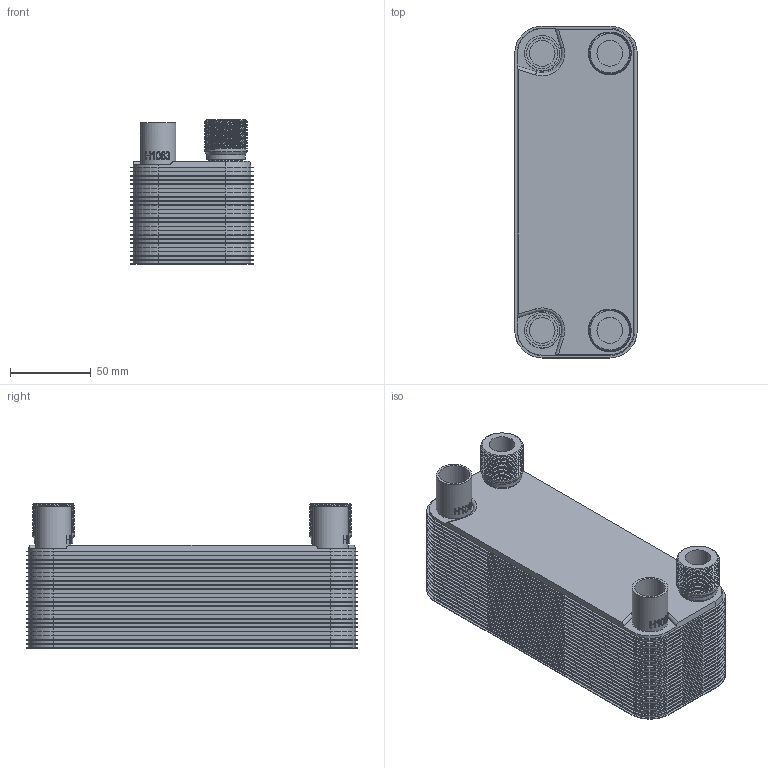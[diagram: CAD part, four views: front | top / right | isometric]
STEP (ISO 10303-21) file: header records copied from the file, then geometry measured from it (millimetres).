
FILE_DESCRIPTION(('TFLEX Exchange Step'),'2;1');
FILE_NAME('111B0279R.stp', '2025-09-08T14:01:16+03:00',('RUCO3026'),('Unknown organisation'),'TFLEX Exchange 2024.6','T-FLEX CAD','Unknown authorisation');
FILE_SCHEMA( ('AUTOMOTIVE_DESIGN { 1 0 10303 214 1 1 1 1 }') );
Length unit declared in the file: millimetre
Bounding box: 76 x 206 x 90 mm (x, y, z)
Volume: 807111.3 mm3; surface area: 131652.4 mm2
Topology: 1 solids, 3 shells, 880 faces, 2380 edges, 1600 vertices
Faces by surface type: plane 368, cylinder 300, extrusion 182, cone 18, torus 8, bspline 4
Full cylindrical faces by diameter (mm): 16 x4, 18.1 x4, 19.2 x2, 22 x2, 24 x2, 25 x36, 26.452 x36
Entity records: 521816 total; most frequent: CARTESIAN_POINT 500211, ORIENTED_EDGE 4760, DIRECTION 3905, EDGE_CURVE 2380, VERTEX_POINT 1600, VECTOR 1439, LINE 1257, AXIS2_PLACEMENT_3D 1233
